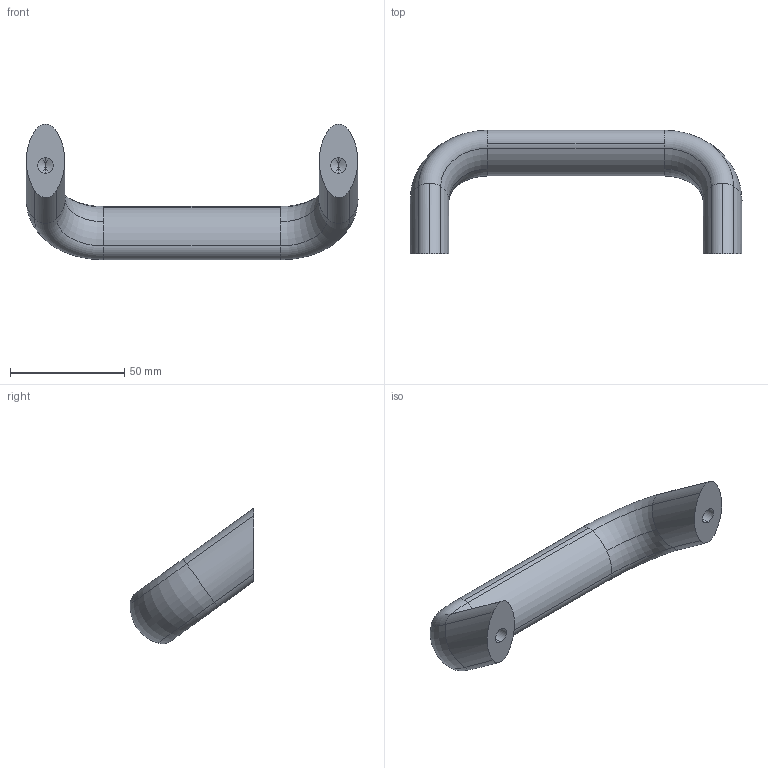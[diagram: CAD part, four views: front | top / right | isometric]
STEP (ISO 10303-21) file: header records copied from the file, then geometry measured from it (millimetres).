
FILE_DESCRIPTION (( 'STEP AP203' ), '1' );
FILE_NAME ('gn565-2_128.step', '2010-10-26T09:58:41', ( '_' ), ( '_' ), 'SwSTEP 2.0', 'SolidWorks 2010', '' );
FILE_SCHEMA (( 'CONFIG_CONTROL_DESIGN' ));
Length unit declared in the file: millimetre
Products named in the file (1): gn565-2_128
Bounding box: 145 x 53.97 x 59.21 mm (x, y, z)
Volume: 72061 mm3; surface area: 15894.4 mm2
Topology: 1 solids, 1 shells, 35 faces, 79 edges, 44 vertices
Faces by surface type: cylinder 19, torus 10, cone 4, plane 2
Entity records: 1024 total; most frequent: CARTESIAN_POINT 185, DIRECTION 179, ORIENTED_EDGE 150, AXIS2_PLACEMENT_3D 78, EDGE_CURVE 75, VERTEX_POINT 44, CIRCLE 42, EDGE_LOOP 37
